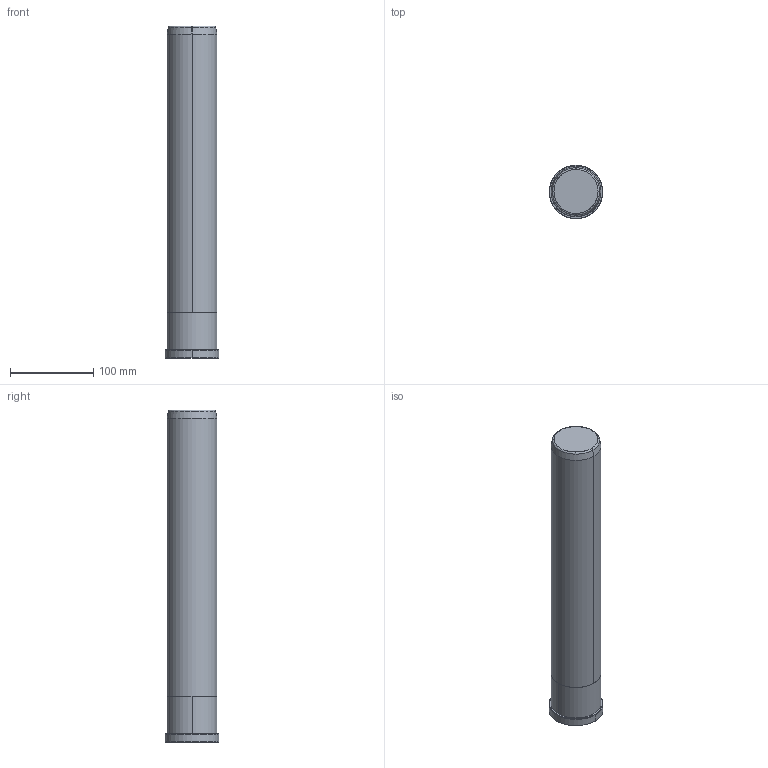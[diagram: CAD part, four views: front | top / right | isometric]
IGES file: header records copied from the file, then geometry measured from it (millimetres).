
Start section: START RECORD GO HERE.
Global section: file name: B80860400.igs; native system: DASSAULT SYSTEMES CATIA V5 R20 - www.3ds.com; preprocessor: CATIA Version 5 Release 20 ; author: Utente; organization: NB04-ASUS; date: 20200419.165732; units: millimetre
Bounding box: 65 x 65 x 400 mm (x, y, z)
Surface area: 81623.3 mm2 (no closed solid volume)
Topology: 0 solids, 0 shells, 20 faces, 80 edges, 80 vertices
Faces by surface type: revolution 16, plane 4
